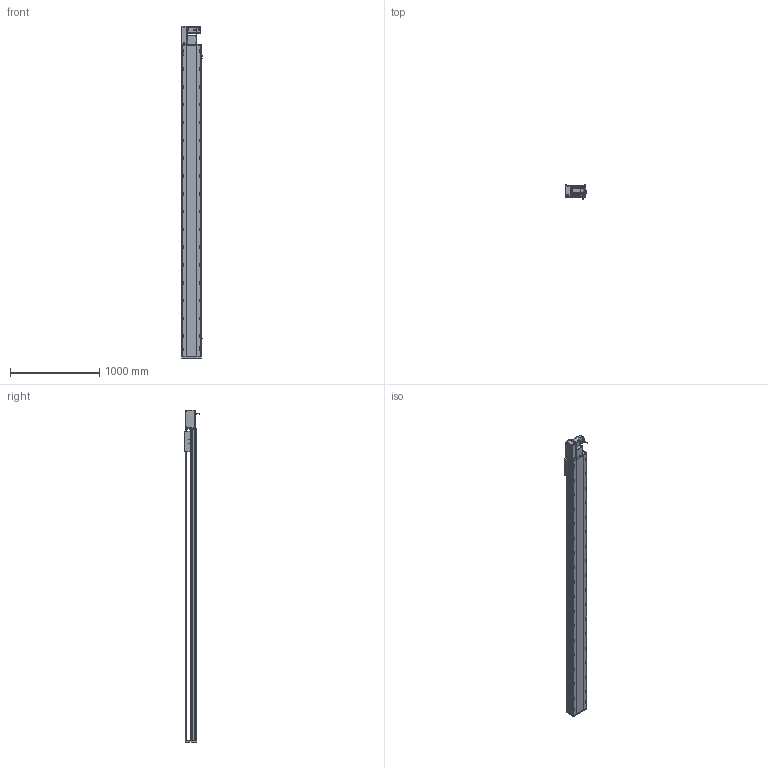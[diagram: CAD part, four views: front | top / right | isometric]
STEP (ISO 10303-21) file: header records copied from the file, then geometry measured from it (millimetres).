
FILE_DESCRIPTION (( 'STEP AP214' ), '1' );
FILE_NAME ('RTB22S-XX-3150-L-M75-C4.STEP', '2025-12-12T03:33:32', ( '' ), ( '' ), 'SwSTEP 2.0', 'SolidWorks 2018', '' );
FILE_SCHEMA (( 'AUTOMOTIVE_DESIGN' ));
Length unit declared in the file: millimetre
Products named in the file (14): RTB22S-GY-007奻裔^RTB22S-XX-XX-L-M75-C4; RTB22S-GY-001耜裔^RTB22S-XX-XX-L-M75-C4; 750W萇儂^RTB22S-XX-XX-L-M75-C4; RTB22S-GY-018P^RTB22S-L-々湍釱蚾饜_RTB22S-XX-XX-L-M75-C4; RTB22S-L-々湍釱蚾饜^RTB22S-XX-XX-L-M75-C4; RTB22S-GY-014--々湍釱^RTB22S-L-々湍釱蚾饜_RTB22S-XX-XX-L-M75-C4; RTB22S-L-011菁釱^RTB22S-XX-XX-L-M75-C4; RTH22-GY-013外置感应片^RTB22S-XX-XX-L-M75-C4; RTB22S-XX-3150-L-M75-C4; RTB22S-GY-005P^RTB22S-L-々湍釱蚾饜_RTB22S-XX-XX-L-M75-C4; RTB22S-GY-017P^RTB22S-L-々湍釱蚾饜_RTB22S-XX-XX-L-M75-C4; RTB22S-GY-008-M75--萇儂啣^RTB22S-L-々湍釱蚾饜_RTB22S-XX-XX-L-M75-C4; RTB22S-L-004賑釱^RTB22S-XX-XX-L-M75-C4; OMRON EE-SX672 传感器^RTB22S-XX-XX-L-M75-C4
Assembly tree (16 placements, depth 3):
  RTB22S-XX-3150-L-M75-C4
    RTB22S-L-011菁釱^RTB22S-XX-XX-L-M75-C4
    750W萇儂^RTB22S-XX-XX-L-M75-C4
    RTB22S-L-004賑釱^RTB22S-XX-XX-L-M75-C4
    OMRON EE-SX672 传感器^RTB22S-XX-XX-L-M75-C4  x3
    RTH22-GY-013外置感应片^RTB22S-XX-XX-L-M75-C4
    RTB22S-GY-007奻裔^RTB22S-XX-XX-L-M75-C4
    RTB22S-GY-001耜裔^RTB22S-XX-XX-L-M75-C4
    RTB22S-L-々湍釱蚾饜^RTB22S-XX-XX-L-M75-C4
      RTB22S-GY-014--々湍釱^RTB22S-L-々湍釱蚾饜_RTB22S-XX-XX-L-M75-C4
      RTB22S-GY-017P^RTB22S-L-々湍釱蚾饜_RTB22S-XX-XX-L-M75-C4  x2
      RTB22S-GY-005P^RTB22S-L-々湍釱蚾饜_RTB22S-XX-XX-L-M75-C4
      RTB22S-GY-008-M75--萇儂啣^RTB22S-L-々湍釱蚾饜_RTB22S-XX-XX-L-M75-C4
      RTB22S-GY-018P^RTB22S-L-々湍釱蚾饜_RTB22S-XX-XX-L-M75-C4
Bounding box: 238.5 x 162.7 x 3729 mm (x, y, z)
Volume: 46337643 mm3; surface area: 4720768.4 mm2
Topology: 15 solids, 15 shells, 2163 faces, 5886 edges, 3752 vertices
Faces by surface type: plane 935, cylinder 742, bspline 296, cone 178, sphere 8, torus 4
Entity records: 59348 total; most frequent: CARTESIAN_POINT 16652, ORIENTED_EDGE 8480, DIRECTION 8334, EDGE_CURVE 4240, AXIS2_PLACEMENT_3D 3006, VERTEX_POINT 2756, LINE 2322, VECTOR 2322
